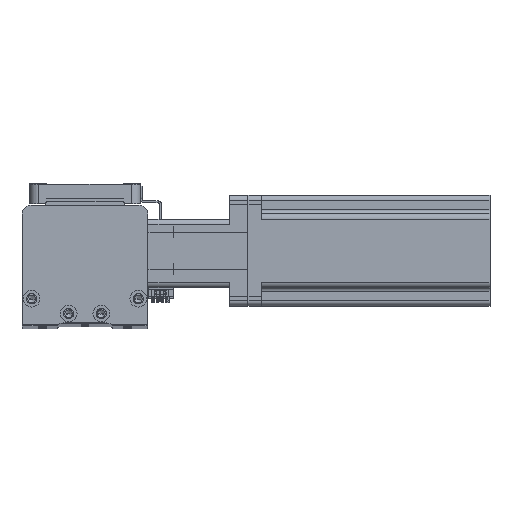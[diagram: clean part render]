
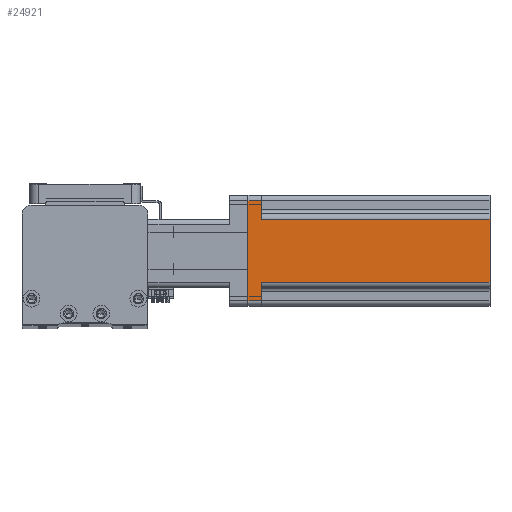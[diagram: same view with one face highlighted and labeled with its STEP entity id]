
A CAD part, top view. The second image highlights one B-rep face of the part: STEP entity #24921.
In plain terms, the highlighted planar face has unit normal (0, 0, 1) as drawn and (1, 0, 0) by its records, which use the part's own axes.
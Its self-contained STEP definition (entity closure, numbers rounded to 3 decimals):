
#555 = AXIS2_PLACEMENT_3D ( 'NONE', #6788, #31865, #10404 ) ;
#642 = DIRECTION ( 'NONE',  ( 0., 1., 0. ) ) ;
#1217 = DIRECTION ( 'NONE',  ( 0., 1., 0. ) ) ;
#2426 = CARTESIAN_POINT ( 'NONE',  ( 30., 17., 7.5 ) ) ;
#4440 = VERTEX_POINT ( 'NONE', #11238 ) ;
#4649 = EDGE_LOOP ( 'NONE', ( #26083, #45364, #28410, #21586, #13725, #43169, #4768, #34427 ) ) ;
#4768 = ORIENTED_EDGE ( 'NONE', *, *, #41973, .F. ) ;
#4931 = CARTESIAN_POINT ( 'NONE',  ( 30., 27., 7.5 ) ) ;
#6788 = CARTESIAN_POINT ( 'NONE',  ( 30., -30., 130.7 ) ) ;
#7974 = VERTEX_POINT ( 'NONE', #35577 ) ;
#8889 = DIRECTION ( 'NONE',  ( 0., 0., 1. ) ) ;
#8966 = VECTOR ( 'NONE', #39960, 1000. ) ;
#10236 = PLANE ( 'NONE',  #555 ) ;
#10404 = DIRECTION ( 'NONE',  ( 0., 0., 1. ) ) ;
#11238 = CARTESIAN_POINT ( 'NONE',  ( 30., -17., 130.7 ) ) ;
#11638 = VECTOR ( 'NONE', #31433, 1000. ) ;
#13269 = VERTEX_POINT ( 'NONE', #44500 ) ;
#13725 = ORIENTED_EDGE ( 'NONE', *, *, #39881, .T. ) ;
#14993 = VERTEX_POINT ( 'NONE', #16414 ) ;
#16145 = LINE ( 'NONE', #41904, #11638 ) ;
#16414 = CARTESIAN_POINT ( 'NONE',  ( 30., -27., 7.5 ) ) ;
#16875 = CARTESIAN_POINT ( 'NONE',  ( 30., -27., 130.7 ) ) ;
#17013 = CARTESIAN_POINT ( 'NONE',  ( 30., -17., 7.5 ) ) ;
#17288 = LINE ( 'NONE', #16875, #44417 ) ;
#18643 = CARTESIAN_POINT ( 'NONE',  ( 30., 17., 130.7 ) ) ;
#19715 = VECTOR ( 'NONE', #8889, 1000. ) ;
#19974 = VERTEX_POINT ( 'NONE', #43183 ) ;
#20608 = VECTOR ( 'NONE', #642, 1000. ) ;
#20843 = LINE ( 'NONE', #26818, #19715 ) ;
#21336 = VECTOR ( 'NONE', #1217, 1000. ) ;
#21586 = ORIENTED_EDGE ( 'NONE', *, *, #41267, .T. ) ;
#22620 = CARTESIAN_POINT ( 'NONE',  ( 30., 30., 7.5 ) ) ;
#23799 = DIRECTION ( 'NONE',  ( 0., 1., 0. ) ) ;
#24638 = FACE_OUTER_BOUND ( 'NONE', #4649, .T. ) ;
#24781 = CARTESIAN_POINT ( 'NONE',  ( 30., -17., 7.5 ) ) ;
#24921 = ADVANCED_FACE ( 'NONE', ( #24638 ), #10236, .F. ) ;
#26083 = ORIENTED_EDGE ( 'NONE', *, *, #33134, .F. ) ;
#26818 = CARTESIAN_POINT ( 'NONE',  ( 30., 27., 130.7 ) ) ;
#26972 = VECTOR ( 'NONE', #23799, 1000. ) ;
#28102 = LINE ( 'NONE', #18643, #8966 ) ;
#28410 = ORIENTED_EDGE ( 'NONE', *, *, #41322, .T. ) ;
#31433 = DIRECTION ( 'NONE',  ( 0., -1., 0. ) ) ;
#31865 = DIRECTION ( 'NONE',  ( -1., 0., 0. ) ) ;
#33134 = EDGE_CURVE ( 'NONE', #4440, #19974, #39486, .T. ) ;
#34165 = CARTESIAN_POINT ( 'NONE',  ( 30., -30., 0. ) ) ;
#34427 = ORIENTED_EDGE ( 'NONE', *, *, #41910, .T. ) ;
#35577 = CARTESIAN_POINT ( 'NONE',  ( 30., 27., 0. ) ) ;
#35818 = LINE ( 'NONE', #24781, #44049 ) ;
#36302 = LINE ( 'NONE', #34165, #26972 ) ;
#39471 = EDGE_CURVE ( 'NONE', #4440, #42786, #35818, .T. ) ;
#39486 = LINE ( 'NONE', #43334, #20608 ) ;
#39881 = EDGE_CURVE ( 'NONE', #13269, #7974, #36302, .T. ) ;
#39960 = DIRECTION ( 'NONE',  ( 0., 0., 1. ) ) ;
#40206 = LINE ( 'NONE', #22620, #21336 ) ;
#41267 = EDGE_CURVE ( 'NONE', #14993, #13269, #17288, .T. ) ;
#41322 = EDGE_CURVE ( 'NONE', #42786, #14993, #16145, .T. ) ;
#41609 = VERTEX_POINT ( 'NONE', #4931 ) ;
#41768 = DIRECTION ( 'NONE',  ( 0., 0., -1. ) ) ;
#41904 = CARTESIAN_POINT ( 'NONE',  ( 30., -30., 7.5 ) ) ;
#41910 = EDGE_CURVE ( 'NONE', #45586, #19974, #28102, .T. ) ;
#41973 = EDGE_CURVE ( 'NONE', #45586, #41609, #40206, .T. ) ;
#42354 = DIRECTION ( 'NONE',  ( 0., 0., -1. ) ) ;
#42786 = VERTEX_POINT ( 'NONE', #17013 ) ;
#43169 = ORIENTED_EDGE ( 'NONE', *, *, #44847, .T. ) ;
#43183 = CARTESIAN_POINT ( 'NONE',  ( 30., 17., 130.7 ) ) ;
#43334 = CARTESIAN_POINT ( 'NONE',  ( 30., -30., 130.7 ) ) ;
#44049 = VECTOR ( 'NONE', #42354, 1000. ) ;
#44417 = VECTOR ( 'NONE', #41768, 1000. ) ;
#44500 = CARTESIAN_POINT ( 'NONE',  ( 30., -27., 0. ) ) ;
#44847 = EDGE_CURVE ( 'NONE', #7974, #41609, #20843, .T. ) ;
#45364 = ORIENTED_EDGE ( 'NONE', *, *, #39471, .T. ) ;
#45586 = VERTEX_POINT ( 'NONE', #2426 ) ;
